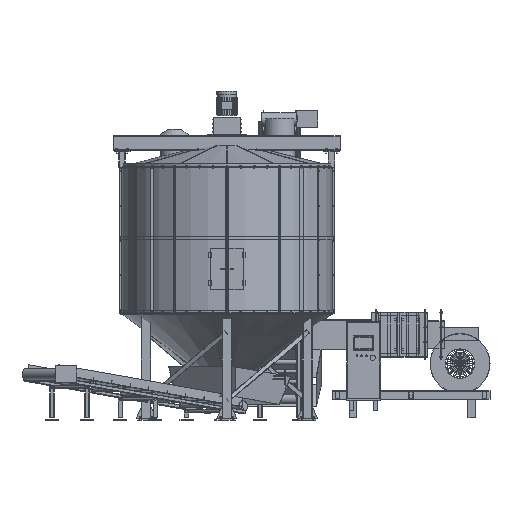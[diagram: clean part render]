
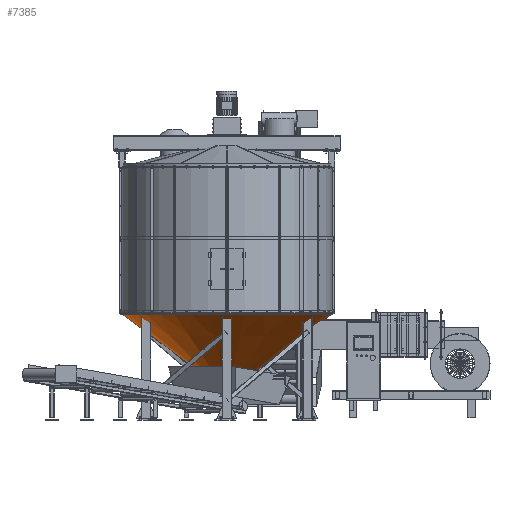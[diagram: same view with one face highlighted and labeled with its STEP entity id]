
A CAD part, front view. The second image highlights one B-rep face of the part: STEP entity #7385.
In plain terms, the highlighted conical face has half-angle 53.185 degrees and reference radius 330 mm.
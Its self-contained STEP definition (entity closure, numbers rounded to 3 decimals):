
#7385 = ADVANCED_FACE('',(#7386),#7399,.T.);
#7386 = FACE_BOUND('',#7387,.T.);
#7387 = EDGE_LOOP('',(#7388,#7422,#7445,#7472));
#7388 = ORIENTED_EDGE('',*,*,#7389,.F.);
#7389 = EDGE_CURVE('',#7390,#7390,#7392,.T.);
#7390 = VERTEX_POINT('',#7391);
#7391 = CARTESIAN_POINT('',(2000.,0.,2050.));
#7392 = SURFACE_CURVE('',#7393,(#7398,#7410),.PCURVE_S1.);
#7393 = CIRCLE('',#7394,2000.);
#7394 = AXIS2_PLACEMENT_3D('',#7395,#7396,#7397);
#7395 = CARTESIAN_POINT('',(0.,0.,2050.));
#7396 = DIRECTION('',(0.,0.,1.));
#7397 = DIRECTION('',(1.,0.,-0.));
#7398 = PCURVE('',#7399,#7404);
#7399 = CONICAL_SURFACE('',#7400,330.,0.928);
#7400 = AXIS2_PLACEMENT_3D('',#7401,#7402,#7403);
#7401 = CARTESIAN_POINT('',(0.,0.,800.));
#7402 = DIRECTION('',(0.,0.,1.));
#7403 = DIRECTION('',(1.,0.,-0.));
#7404 = DEFINITIONAL_REPRESENTATION('',(#7405),#7409);
#7405 = LINE('',#7406,#7407);
#7406 = CARTESIAN_POINT('',(0.,1250.));
#7407 = VECTOR('',#7408,1.);
#7408 = DIRECTION('',(1.,0.));
#7409 = ( GEOMETRIC_REPRESENTATION_CONTEXT(2) 
PARAMETRIC_REPRESENTATION_CONTEXT() REPRESENTATION_CONTEXT('2D SPACE',''
  ) );
#7410 = PCURVE('',#7411,#7416);
#7411 = PLANE('',#7412);
#7412 = AXIS2_PLACEMENT_3D('',#7413,#7414,#7415);
#7413 = CARTESIAN_POINT('',(0.,0.,2050.));
#7414 = DIRECTION('',(0.,0.,1.));
#7415 = DIRECTION('',(1.,0.,-0.));
#7416 = DEFINITIONAL_REPRESENTATION('',(#7417),#7421);
#7417 = CIRCLE('',#7418,2000.);
#7418 = AXIS2_PLACEMENT_2D('',#7419,#7420);
#7419 = CARTESIAN_POINT('',(0.,0.));
#7420 = DIRECTION('',(1.,0.));
#7421 = ( GEOMETRIC_REPRESENTATION_CONTEXT(2) 
PARAMETRIC_REPRESENTATION_CONTEXT() REPRESENTATION_CONTEXT('2D SPACE',''
  ) );
#7422 = ORIENTED_EDGE('',*,*,#7423,.F.);
#7423 = EDGE_CURVE('',#7424,#7390,#7426,.T.);
#7424 = VERTEX_POINT('',#7425);
#7425 = CARTESIAN_POINT('',(330.,0.,800.));
#7426 = SEAM_CURVE('',#7427,(#7431,#7438),.PCURVE_S1.);
#7427 = LINE('',#7428,#7429);
#7428 = CARTESIAN_POINT('',(330.,0.,800.));
#7429 = VECTOR('',#7430,1.);
#7430 = DIRECTION('',(0.801,0.,0.599));
#7431 = PCURVE('',#7399,#7432);
#7432 = DEFINITIONAL_REPRESENTATION('',(#7433),#7437);
#7433 = LINE('',#7434,#7435);
#7434 = CARTESIAN_POINT('',(6.283,-0.));
#7435 = VECTOR('',#7436,1.);
#7436 = DIRECTION('',(0.,1.));
#7437 = ( GEOMETRIC_REPRESENTATION_CONTEXT(2) 
PARAMETRIC_REPRESENTATION_CONTEXT() REPRESENTATION_CONTEXT('2D SPACE',''
  ) );
#7438 = PCURVE('',#7399,#7439);
#7439 = DEFINITIONAL_REPRESENTATION('',(#7440),#7444);
#7440 = LINE('',#7441,#7442);
#7441 = CARTESIAN_POINT('',(0.,-0.));
#7442 = VECTOR('',#7443,1.);
#7443 = DIRECTION('',(0.,1.));
#7444 = ( GEOMETRIC_REPRESENTATION_CONTEXT(2) 
PARAMETRIC_REPRESENTATION_CONTEXT() REPRESENTATION_CONTEXT('2D SPACE',''
  ) );
#7445 = ORIENTED_EDGE('',*,*,#7446,.T.);
#7446 = EDGE_CURVE('',#7424,#7424,#7447,.T.);
#7447 = SURFACE_CURVE('',#7448,(#7453,#7460),.PCURVE_S1.);
#7448 = CIRCLE('',#7449,330.);
#7449 = AXIS2_PLACEMENT_3D('',#7450,#7451,#7452);
#7450 = CARTESIAN_POINT('',(0.,0.,800.));
#7451 = DIRECTION('',(0.,0.,1.));
#7452 = DIRECTION('',(1.,0.,-0.));
#7453 = PCURVE('',#7399,#7454);
#7454 = DEFINITIONAL_REPRESENTATION('',(#7455),#7459);
#7455 = LINE('',#7456,#7457);
#7456 = CARTESIAN_POINT('',(0.,0.));
#7457 = VECTOR('',#7458,1.);
#7458 = DIRECTION('',(1.,0.));
#7459 = ( GEOMETRIC_REPRESENTATION_CONTEXT(2) 
PARAMETRIC_REPRESENTATION_CONTEXT() REPRESENTATION_CONTEXT('2D SPACE',''
  ) );
#7460 = PCURVE('',#7461,#7466);
#7461 = PLANE('',#7462);
#7462 = AXIS2_PLACEMENT_3D('',#7463,#7464,#7465);
#7463 = CARTESIAN_POINT('',(0.,0.,800.));
#7464 = DIRECTION('',(0.,0.,1.));
#7465 = DIRECTION('',(1.,0.,-0.));
#7466 = DEFINITIONAL_REPRESENTATION('',(#7467),#7471);
#7467 = CIRCLE('',#7468,330.);
#7468 = AXIS2_PLACEMENT_2D('',#7469,#7470);
#7469 = CARTESIAN_POINT('',(0.,0.));
#7470 = DIRECTION('',(1.,0.));
#7471 = ( GEOMETRIC_REPRESENTATION_CONTEXT(2) 
PARAMETRIC_REPRESENTATION_CONTEXT() REPRESENTATION_CONTEXT('2D SPACE',''
  ) );
#7472 = ORIENTED_EDGE('',*,*,#7423,.T.);
